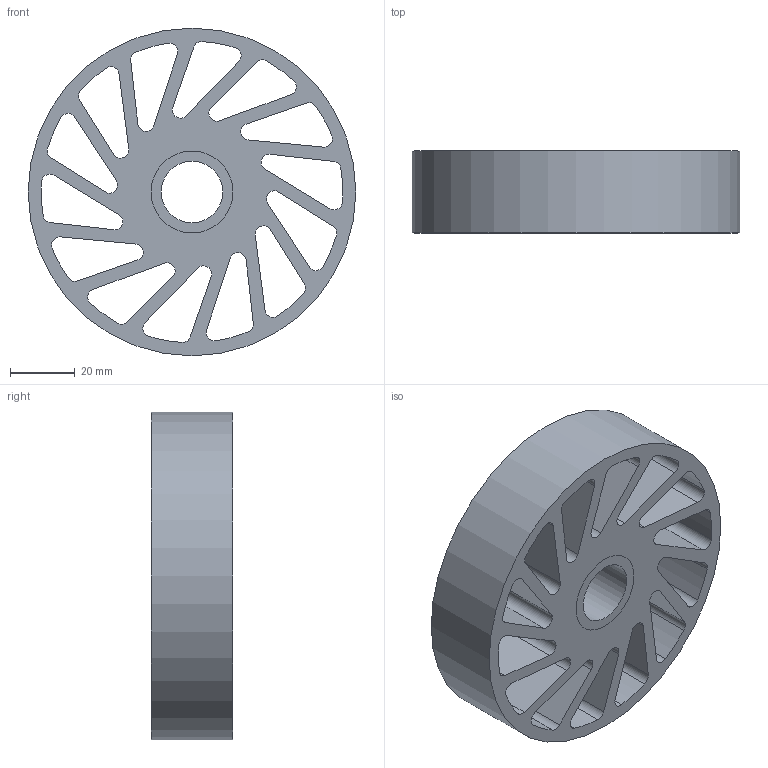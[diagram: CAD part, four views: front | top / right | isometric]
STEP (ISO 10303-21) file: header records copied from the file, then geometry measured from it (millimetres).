
FILE_DESCRIPTION(/* description */ (''),/* implementation_level */ '2;1');
FILE_NAME(/* name */ 'C:\Users\Owner\Desktop\Meridian Stuff\Oilite\NCWOB-370-XXX.stp',/* time_stamp */ '2023-05-22T16:57:36-05:00',/* author */ ('ASG'),/* organization */ ('Meridian Laboratory '),/* preprocessor_version */ 'ST-DEVELOPER v19',/* originating_system */ 'Autodesk Inventor 2023',/* authorisation */ '');
FILE_SCHEMA (('AUTOMOTIVE_DESIGN { 1 0 10303 214 3 1 1 }'));
Length unit declared in the file: inch
Products named in the file (1): NCWOB-340-XXX
Bounding box: 101.6 x 25.4 x 101.6 mm (x, y, z)
Volume: 108188.7 mm3; surface area: 46805 mm2
Topology: 2 solids, 2 shells, 92 faces, 264 edges, 176 vertices
Faces by surface type: cylinder 60, plane 32
Full cylindrical faces by diameter (mm): 19.101 x1, 25.4 x2, 101.6 x1
Entity records: 3285 total; most frequent: DIRECTION 570, CARTESIAN_POINT 533, ORIENTED_EDGE 528, EDGE_CURVE 264, AXIS2_PLACEMENT_3D 213, VERTEX_POINT 176, LINE 144, VECTOR 144
